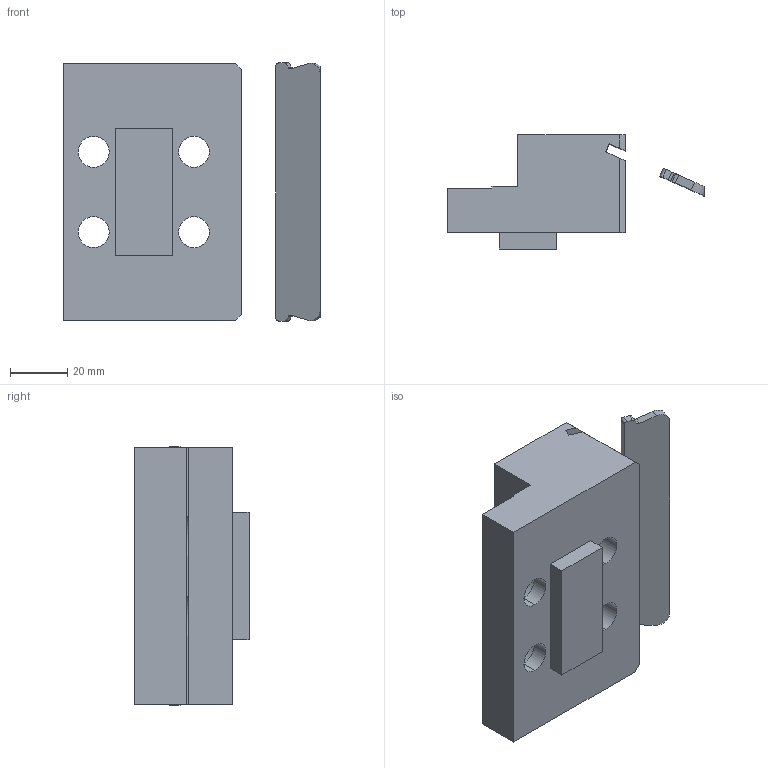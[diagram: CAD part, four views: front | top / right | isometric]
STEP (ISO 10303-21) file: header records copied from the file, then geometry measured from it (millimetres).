
FILE_DESCRIPTION (( 'STEP AP203' ), '1' );
FILE_NAME ('6921674102040_Niederzugbacke_NC90_Mobil.STEP', '2009-03-11T15:00:16', ( 'Markus Römer' ), ( '' ), 'SwSTEP 2.0', 'SolidWorks 2008', '' );
FILE_SCHEMA (( 'CONFIG_CONTROL_DESIGN' ));
Length unit declared in the file: millimetre
Products named in the file (1): 6921674102040_Niederzugbacke_NC90_Mobil
Bounding box: 89.61 x 39.8 x 90 mm (x, y, z)
Volume: 138702.8 mm3; surface area: 29630.1 mm2
Topology: 2 solids, 2 shells, 63 faces, 168 edges, 112 vertices
Faces by surface type: plane 39, cylinder 24
Entity records: 2065 total; most frequent: CARTESIAN_POINT 350, DIRECTION 346, ORIENTED_EDGE 336, EDGE_CURVE 168, AXIS2_PLACEMENT_3D 116, VECTOR 114, LINE 114, VERTEX_POINT 112
